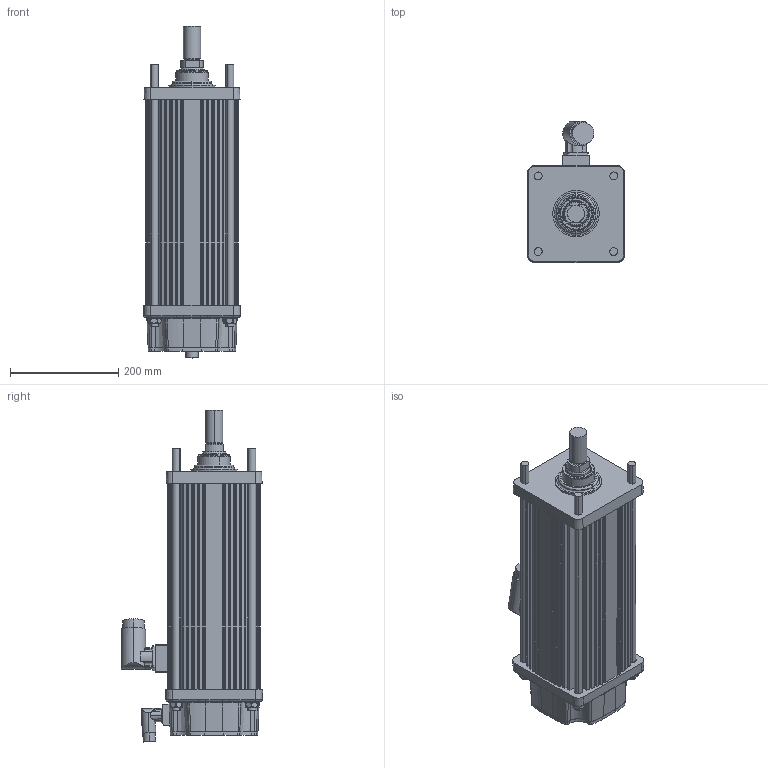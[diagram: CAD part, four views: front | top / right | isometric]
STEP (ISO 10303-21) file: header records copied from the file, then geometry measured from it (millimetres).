
FILE_DESCRIPTION (( 'STEP AP203' ), '1' );
FILE_NAME ('GSX60 – 10 inch, Extended Tie Rod, euro conn, A rod.step', '2007-07-25T08:45:50', ( 'i2t2' ), ( '' ), 'SwSTEP 2.0', 'SolidWorks 2007', '' );
FILE_SCHEMA (( 'CONFIG_CONTROL_DESIGN' ));
Length unit declared in the file: inch
Products named in the file (15): 19022; 19032; 19820; 14063; GSX60 – 10 inch, Extended Tie Rod, euro conn, A rod; CASE_20895-10"; 12352; MAIN ROD_A-Main Rod-10"; 15626; 12377; 24861; 20506; 15340; 15635; TIEROD_15599-10"
Assembly tree (24 placements, depth 2):
  GSX60 – 10 inch, Extended Tie Rod, euro conn, A rod
    TIEROD_15599-10"  x4
    12377
    24861
    CASE_20895-10"
    15635  x4
    15340
    12352  x2
    14063  x4
    19032
    15626
    20506
    MAIN ROD_A-Main Rod-10"
    19022
    19820
Bounding box: 179.74 x 261.41 x 613.69 mm (x, y, z)
Volume: 5525405.5 mm3; surface area: 1228945.7 mm2
Topology: 24 solids, 24 shells, 1398 faces, 3736 edges, 2325 vertices
Faces by surface type: cylinder 591, plane 324, torus 235, cone 176, sphere 46, bspline 26
Entity records: 39797 total; most frequent: CARTESIAN_POINT 9326, DIRECTION 6307, ORIENTED_EDGE 5838, EDGE_CURVE 2919, AXIS2_PLACEMENT_3D 2573, VERTEX_POINT 1858, CIRCLE 1414, EDGE_LOOP 1341
